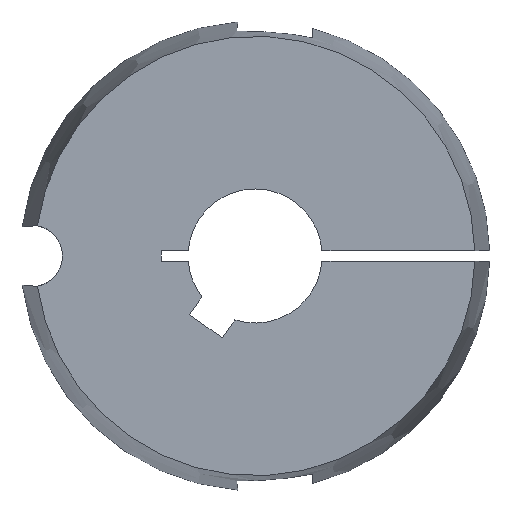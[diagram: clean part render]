
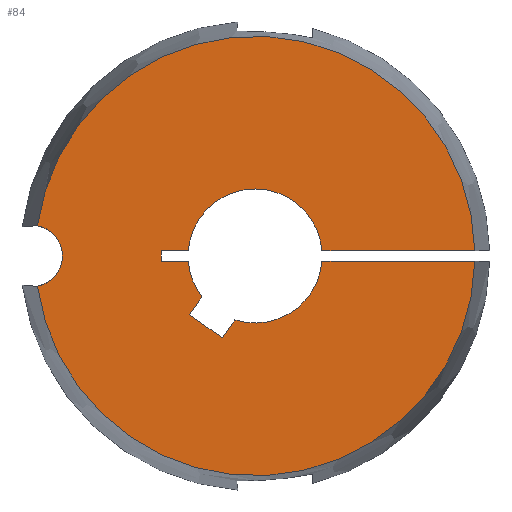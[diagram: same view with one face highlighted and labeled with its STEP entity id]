
A CAD part, left-side view. The second image highlights one B-rep face of the part: STEP entity #84.
In plain terms, the highlighted planar face has unit normal (-1, 0, 0).
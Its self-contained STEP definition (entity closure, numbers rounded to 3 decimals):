
#84 = ADVANCED_FACE( '', ( #114 ), #115, .F. );
#114 = FACE_OUTER_BOUND( '', #154, .T. );
#115 = PLANE( '', #155 );
#154 = EDGE_LOOP( '', ( #251, #252, #253, #254, #255, #256, #257, #258, #259, #260, #261, #262, #263, #264 ) );
#155 = AXIS2_PLACEMENT_3D( '', #265, #266, #267 );
#251 = ORIENTED_EDGE( '', *, *, #349, .T. );
#252 = ORIENTED_EDGE( '', *, *, #381, .F. );
#253 = ORIENTED_EDGE( '', *, *, #352, .T. );
#254 = ORIENTED_EDGE( '', *, *, #365, .T. );
#255 = ORIENTED_EDGE( '', *, *, #363, .T. );
#256 = ORIENTED_EDGE( '', *, *, #360, .T. );
#257 = ORIENTED_EDGE( '', *, *, #369, .T. );
#258 = ORIENTED_EDGE( '', *, *, #382, .T. );
#259 = ORIENTED_EDGE( '', *, *, #383, .T. );
#260 = ORIENTED_EDGE( '', *, *, #384, .T. );
#261 = ORIENTED_EDGE( '', *, *, #385, .T. );
#262 = ORIENTED_EDGE( '', *, *, #386, .T. );
#263 = ORIENTED_EDGE( '', *, *, #354, .T. );
#264 = ORIENTED_EDGE( '', *, *, #387, .F. );
#265 = CARTESIAN_POINT( '', ( -31.8, 0., 0. ) );
#266 = DIRECTION( '', ( 1., 0., 0. ) );
#267 = DIRECTION( '', ( 0., 0., -1. ) );
#349 = EDGE_CURVE( '', #402, #407, #409, .T. );
#352 = EDGE_CURVE( '', #415, #413, #416, .T. );
#354 = EDGE_CURVE( '', #418, #419, #420, .T. );
#360 = EDGE_CURVE( '', #431, #429, #432, .T. );
#363 = EDGE_CURVE( '', #436, #431, #437, .T. );
#365 = EDGE_CURVE( '', #413, #436, #439, .T. );
#369 = EDGE_CURVE( '', #429, #443, #445, .T. );
#381 = EDGE_CURVE( '', #415, #407, #465, .T. );
#382 = EDGE_CURVE( '', #443, #466, #467, .T. );
#383 = EDGE_CURVE( '', #466, #468, #469, .T. );
#384 = EDGE_CURVE( '', #468, #470, #471, .T. );
#385 = EDGE_CURVE( '', #470, #472, #473, .T. );
#386 = EDGE_CURVE( '', #472, #418, #474, .T. );
#387 = EDGE_CURVE( '', #402, #419, #475, .T. );
#402 = VERTEX_POINT( '', #521 );
#407 = VERTEX_POINT( '', #531 );
#409 = CIRCLE( '', #538, 4.6 );
#413 = VERTEX_POINT( '', #543 );
#415 = VERTEX_POINT( '', #546 );
#416 = LINE( '', #547, #548 );
#418 = VERTEX_POINT( '', #556 );
#419 = VERTEX_POINT( '', #557 );
#420 = LINE( '', #558, #559 );
#429 = VERTEX_POINT( '', #577 );
#431 = VERTEX_POINT( '', #580 );
#432 = LINE( '', #581, #582 );
#436 = VERTEX_POINT( '', #588 );
#437 = LINE( '', #589, #590 );
#439 = CIRCLE( '', #593, 10. );
#443 = VERTEX_POINT( '', #598 );
#445 = LINE( '', #601, #602 );
#465 = CIRCLE( '', #625, 32.776 );
#466 = VERTEX_POINT( '', #626 );
#467 = CIRCLE( '', #627, 10. );
#468 = VERTEX_POINT( '', #628 );
#469 = LINE( '', #629, #630 );
#470 = VERTEX_POINT( '', #631 );
#471 = LINE( '', #632, #633 );
#472 = VERTEX_POINT( '', #634 );
#473 = LINE( '', #635, #636 );
#474 = CIRCLE( '', #637, 10. );
#475 = CIRCLE( '', #638, 32.776 );
#521 = CARTESIAN_POINT( '', ( -31.8, 32.464, 4.516 ) );
#531 = CARTESIAN_POINT( '', ( -31.8, 32.464, -4.516 ) );
#538 = AXIS2_PLACEMENT_3D( '', #702, #703, #704 );
#543 = CARTESIAN_POINT( '', ( -31.8, -9.972, -0.75 ) );
#546 = CARTESIAN_POINT( '', ( -31.8, -32.768, -0.75 ) );
#547 = CARTESIAN_POINT( '', ( -31.8, -35., -0.75 ) );
#548 = VECTOR( '', #707, 1000. );
#556 = CARTESIAN_POINT( '', ( -31.8, -9.972, 0.75 ) );
#557 = CARTESIAN_POINT( '', ( -31.8, -32.768, 0.75 ) );
#558 = CARTESIAN_POINT( '', ( -31.8, 0., 0.75 ) );
#559 = VECTOR( '', #708, 1000. );
#577 = CARTESIAN_POINT( '', ( -31.8, 9.799, -8.764 ) );
#580 = CARTESIAN_POINT( '', ( -31.8, 4.884, -12.206 ) );
#581 = CARTESIAN_POINT( '', ( -31.8, 4.884, -12.206 ) );
#582 = VECTOR( '', #713, 1000. );
#588 = CARTESIAN_POINT( '', ( -31.8, 3.014, -9.535 ) );
#589 = CARTESIAN_POINT( '', ( -31.8, 3.014, -9.535 ) );
#590 = VECTOR( '', #716, 1000. );
#593 = AXIS2_PLACEMENT_3D( '', #718, #719, #720 );
#598 = CARTESIAN_POINT( '', ( -31.8, 7.929, -6.093 ) );
#601 = CARTESIAN_POINT( '', ( -31.8, 9.799, -8.764 ) );
#602 = VECTOR( '', #726, 1000. );
#625 = AXIS2_PLACEMENT_3D( '', #754, #755, #756 );
#626 = CARTESIAN_POINT( '', ( -31.8, 9.972, -0.75 ) );
#627 = AXIS2_PLACEMENT_3D( '', #757, #758, #759 );
#628 = CARTESIAN_POINT( '', ( -31.8, 14., -0.75 ) );
#629 = CARTESIAN_POINT( '', ( -31.8, 0., -0.75 ) );
#630 = VECTOR( '', #760, 1000. );
#631 = CARTESIAN_POINT( '', ( -31.8, 14., 0.75 ) );
#632 = CARTESIAN_POINT( '', ( -31.8, 14., -0.75 ) );
#633 = VECTOR( '', #761, 1000. );
#634 = CARTESIAN_POINT( '', ( -31.8, 9.972, 0.75 ) );
#635 = CARTESIAN_POINT( '', ( -31.8, 14., 0.75 ) );
#636 = VECTOR( '', #762, 1000. );
#637 = AXIS2_PLACEMENT_3D( '', #763, #764, #765 );
#638 = AXIS2_PLACEMENT_3D( '', #766, #767, #768 );
#702 = CARTESIAN_POINT( '', ( -31.8, 33.34, 0. ) );
#703 = DIRECTION( '', ( 1., 0., 0. ) );
#704 = DIRECTION( '', ( 0., 1., 0. ) );
#707 = DIRECTION( '', ( 0., 1., 0. ) );
#708 = DIRECTION( '', ( 0., -1., 0. ) );
#713 = DIRECTION( '', ( 0., 0.819, 0.574 ) );
#716 = DIRECTION( '', ( 0., 0.574, -0.819 ) );
#718 = CARTESIAN_POINT( '', ( -31.8, 0., 0. ) );
#719 = DIRECTION( '', ( 1., 0., 0. ) );
#720 = DIRECTION( '', ( 0., 0., -1. ) );
#726 = DIRECTION( '', ( 0., -0.574, 0.819 ) );
#754 = CARTESIAN_POINT( '', ( -31.8, 0., 0. ) );
#755 = DIRECTION( '', ( 1., 0., 0. ) );
#756 = DIRECTION( '', ( 0., 0., -1. ) );
#757 = CARTESIAN_POINT( '', ( -31.8, 0., 0. ) );
#758 = DIRECTION( '', ( 1., 0., 0. ) );
#759 = DIRECTION( '', ( 0., 0., -1. ) );
#760 = DIRECTION( '', ( 0., 1., 0. ) );
#761 = DIRECTION( '', ( 0., 0., 1. ) );
#762 = DIRECTION( '', ( 0., -1., 0. ) );
#763 = CARTESIAN_POINT( '', ( -31.8, 0., 0. ) );
#764 = DIRECTION( '', ( 1., 0., 0. ) );
#765 = DIRECTION( '', ( 0., 0., -1. ) );
#766 = CARTESIAN_POINT( '', ( -31.8, 0., 0. ) );
#767 = DIRECTION( '', ( 1., 0., 0. ) );
#768 = DIRECTION( '', ( 0., 0., -1. ) );
